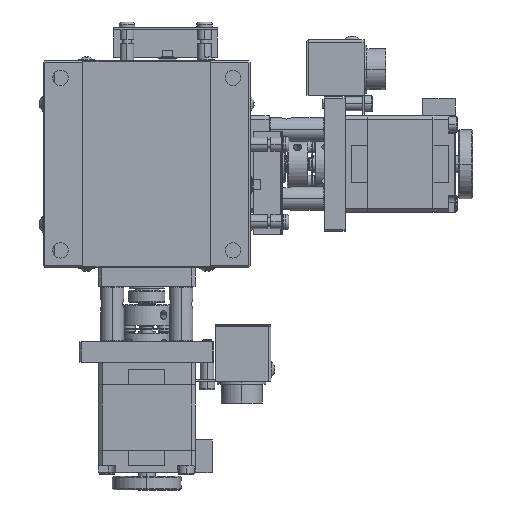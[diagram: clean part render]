
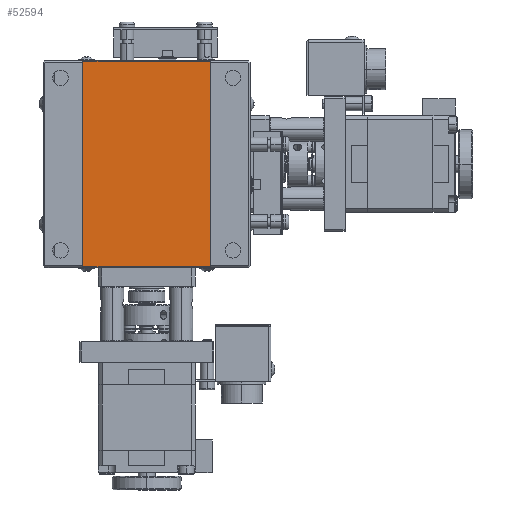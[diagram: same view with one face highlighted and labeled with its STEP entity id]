
A CAD part, front view. The second image highlights one B-rep face of the part: STEP entity #52594.
In plain terms, the highlighted planar face has unit normal (0, -1, 0).
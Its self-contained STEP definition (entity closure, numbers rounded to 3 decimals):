
#665 = AXIS2_PLACEMENT_3D ( 'NONE', #41269, #54835, #12630 ) ;
#3024 = FACE_OUTER_BOUND ( 'NONE', #41697, .T. ) ;
#3188 = ORIENTED_EDGE ( 'NONE', *, *, #8400, .T. ) ;
#6895 = VERTEX_POINT ( 'NONE', #47837 ) ;
#8400 = EDGE_CURVE ( 'NONE', #41553, #55230, #48459, .T. ) ;
#9684 = CARTESIAN_POINT ( 'NONE',  ( -44.516, -14.526, 37.978 ) ) ;
#12407 = DIRECTION ( 'NONE',  ( -1., 0., 0. ) ) ;
#12630 = DIRECTION ( 'NONE',  ( -1., 0., 0. ) ) ;
#17297 = LINE ( 'NONE', #26243, #55169 ) ;
#19614 = DIRECTION ( 'NONE',  ( 0., 0., -1. ) ) ;
#26243 = CARTESIAN_POINT ( 'NONE',  ( 3.984, -14.526, 37.778 ) ) ;
#27001 = CARTESIAN_POINT ( 'NONE',  ( 3.984, -14.526, 97.578 ) ) ;
#27176 = LINE ( 'NONE', #50578, #39847 ) ;
#29690 = VECTOR ( 'NONE', #19614, 1000. ) ;
#31186 = DIRECTION ( 'NONE',  ( 0., 0., 1. ) ) ;
#32052 = CARTESIAN_POINT ( 'NONE',  ( -33.016, -14.526, 37.778 ) ) ;
#33516 = CARTESIAN_POINT ( 'NONE',  ( 3.984, -14.526, 37.978 ) ) ;
#34134 = ORIENTED_EDGE ( 'NONE', *, *, #45981, .T. ) ;
#36972 = PLANE ( 'NONE',  #665 ) ;
#39460 = VECTOR ( 'NONE', #42331, 1000. ) ;
#39847 = VECTOR ( 'NONE', #12407, 1000. ) ;
#41269 = CARTESIAN_POINT ( 'NONE',  ( -44.516, -14.526, 37.778 ) ) ;
#41553 = VERTEX_POINT ( 'NONE', #48774 ) ;
#41697 = EDGE_LOOP ( 'NONE', ( #58073, #42007, #3188, #34134 ) ) ;
#42007 = ORIENTED_EDGE ( 'NONE', *, *, #44963, .T. ) ;
#42331 = DIRECTION ( 'NONE',  ( 1., 0., 0. ) ) ;
#44963 = EDGE_CURVE ( 'NONE', #6895, #41553, #60376, .T. ) ;
#45981 = EDGE_CURVE ( 'NONE', #55230, #51885, #17297, .T. ) ;
#47837 = CARTESIAN_POINT ( 'NONE',  ( -33.016, -14.526, 97.578 ) ) ;
#48459 = LINE ( 'NONE', #9684, #39460 ) ;
#48774 = CARTESIAN_POINT ( 'NONE',  ( -33.016, -14.526, 37.978 ) ) ;
#48835 = EDGE_CURVE ( 'NONE', #51885, #6895, #27176, .T. ) ;
#50578 = CARTESIAN_POINT ( 'NONE',  ( -44.516, -14.526, 97.578 ) ) ;
#51885 = VERTEX_POINT ( 'NONE', #27001 ) ;
#52594 = ADVANCED_FACE ( 'NONE', ( #3024 ), #36972, .T. ) ;
#54835 = DIRECTION ( 'NONE',  ( 0., -1., 0. ) ) ;
#55169 = VECTOR ( 'NONE', #31186, 1000. ) ;
#55230 = VERTEX_POINT ( 'NONE', #33516 ) ;
#58073 = ORIENTED_EDGE ( 'NONE', *, *, #48835, .T. ) ;
#60376 = LINE ( 'NONE', #32052, #29690 ) ;
